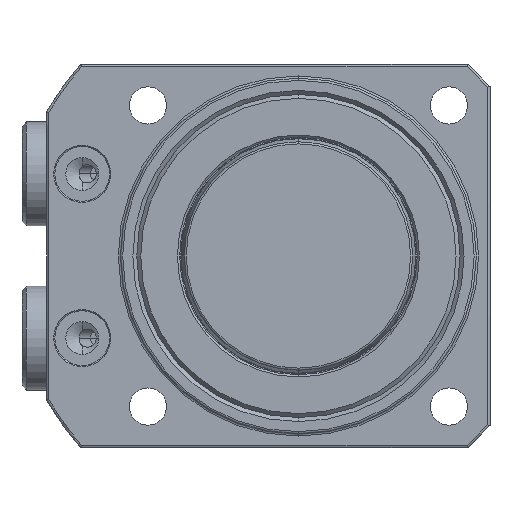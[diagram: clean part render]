
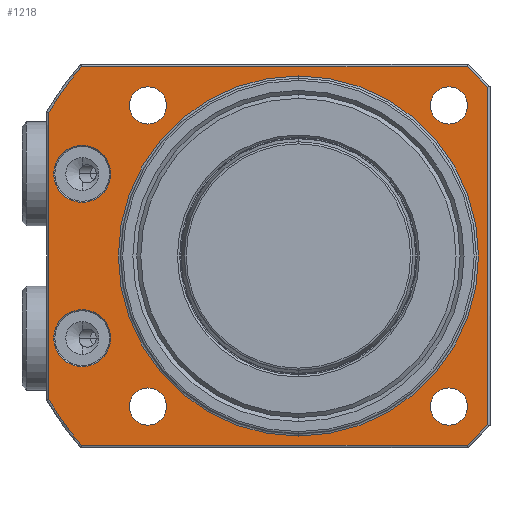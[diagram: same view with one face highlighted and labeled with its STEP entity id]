
A CAD part, front view. The second image highlights one B-rep face of the part: STEP entity #1218.
In plain terms, the highlighted planar face has unit normal (0, -1, 0) as drawn and (1, 0, 0) by its records, which use the part's own axes.
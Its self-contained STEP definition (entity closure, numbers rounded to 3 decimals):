
#881=PLANE('',#4543);
#945=FACE_BOUND('',#1697,.T.);
#946=FACE_BOUND('',#1698,.T.);
#947=FACE_BOUND('',#1699,.T.);
#948=FACE_BOUND('',#1700,.T.);
#949=FACE_BOUND('',#1701,.T.);
#950=FACE_BOUND('',#1702,.T.);
#951=FACE_BOUND('',#1703,.T.);
#952=FACE_BOUND('',#1704,.T.);
#1218=ADVANCED_FACE('',(#945,#946,#947,#948,#949,#950,#951,#952),#881,.F.);
#1697=EDGE_LOOP('',(#2611,#2612));
#1698=EDGE_LOOP('',(#2613,#2614));
#1699=EDGE_LOOP('',(#2615,#2616,#2617,#2618,#2619,#2620,#2621,#2622));
#1700=EDGE_LOOP('',(#2623,#2624));
#1701=EDGE_LOOP('',(#2625,#2626));
#1702=EDGE_LOOP('',(#2627,#2628));
#1703=EDGE_LOOP('',(#2629,#2630));
#1704=EDGE_LOOP('',(#2631,#2632));
#1971=LINE('',#6707,#2172);
#1972=LINE('',#6710,#2173);
#1973=LINE('',#6712,#2174);
#1974=LINE('',#6714,#2175);
#1975=LINE('',#6718,#2176);
#1976=LINE('',#6722,#2177);
#2172=VECTOR('',#5266,1.);
#2173=VECTOR('',#5267,1.);
#2174=VECTOR('',#5268,1.);
#2175=VECTOR('',#5269,1.);
#2176=VECTOR('',#5272,1.);
#2177=VECTOR('',#5275,1.);
#2611=ORIENTED_EDGE('',*,*,#3720,.T.);
#2612=ORIENTED_EDGE('',*,*,#3859,.T.);
#2613=ORIENTED_EDGE('',*,*,#3716,.T.);
#2614=ORIENTED_EDGE('',*,*,#3860,.T.);
#2615=ORIENTED_EDGE('',*,*,#3861,.T.);
#2616=ORIENTED_EDGE('',*,*,#3862,.T.);
#2617=ORIENTED_EDGE('',*,*,#3863,.T.);
#2618=ORIENTED_EDGE('',*,*,#3864,.T.);
#2619=ORIENTED_EDGE('',*,*,#3865,.T.);
#2620=ORIENTED_EDGE('',*,*,#3866,.T.);
#2621=ORIENTED_EDGE('',*,*,#3867,.T.);
#2622=ORIENTED_EDGE('',*,*,#3868,.T.);
#2623=ORIENTED_EDGE('',*,*,#3869,.T.);
#2624=ORIENTED_EDGE('',*,*,#3726,.T.);
#2625=ORIENTED_EDGE('',*,*,#3870,.T.);
#2626=ORIENTED_EDGE('',*,*,#3812,.T.);
#2627=ORIENTED_EDGE('',*,*,#3871,.T.);
#2628=ORIENTED_EDGE('',*,*,#3820,.T.);
#2629=ORIENTED_EDGE('',*,*,#3872,.T.);
#2630=ORIENTED_EDGE('',*,*,#3828,.T.);
#2631=ORIENTED_EDGE('',*,*,#3873,.T.);
#2632=ORIENTED_EDGE('',*,*,#3836,.T.);
#3361=VERTEX_POINT('',#6179);
#3362=VERTEX_POINT('',#6181);
#3365=VERTEX_POINT('',#6188);
#3366=VERTEX_POINT('',#6190);
#3371=VERTEX_POINT('',#6203);
#3372=VERTEX_POINT('',#6204);
#3441=VERTEX_POINT('',#6549);
#3442=VERTEX_POINT('',#6550);
#3449=VERTEX_POINT('',#6576);
#3450=VERTEX_POINT('',#6577);
#3457=VERTEX_POINT('',#6603);
#3458=VERTEX_POINT('',#6604);
#3465=VERTEX_POINT('',#6630);
#3466=VERTEX_POINT('',#6631);
#3477=VERTEX_POINT('',#6708);
#3478=VERTEX_POINT('',#6709);
#3479=VERTEX_POINT('',#6711);
#3480=VERTEX_POINT('',#6713);
#3481=VERTEX_POINT('',#6715);
#3482=VERTEX_POINT('',#6717);
#3483=VERTEX_POINT('',#6719);
#3484=VERTEX_POINT('',#6721);
#3716=EDGE_CURVE('',#3362,#3361,#4172,.T.);
#3720=EDGE_CURVE('',#3366,#3365,#4174,.T.);
#3726=EDGE_CURVE('',#3371,#3372,#4179,.T.);
#3812=EDGE_CURVE('',#3441,#3442,#4216,.T.);
#3820=EDGE_CURVE('',#3449,#3450,#4219,.T.);
#3828=EDGE_CURVE('',#3457,#3458,#4222,.T.);
#3836=EDGE_CURVE('',#3465,#3466,#4225,.T.);
#3859=EDGE_CURVE('',#3365,#3366,#4235,.T.);
#3860=EDGE_CURVE('',#3361,#3362,#4236,.T.);
#3861=EDGE_CURVE('',#3477,#3478,#1971,.T.);
#3862=EDGE_CURVE('',#3478,#3479,#1972,.T.);
#3863=EDGE_CURVE('',#3479,#3480,#1973,.T.);
#3864=EDGE_CURVE('',#3480,#3481,#1974,.T.);
#3865=EDGE_CURVE('',#3481,#3482,#4237,.T.);
#3866=EDGE_CURVE('',#3482,#3483,#1975,.T.);
#3867=EDGE_CURVE('',#3483,#3484,#4238,.T.);
#3868=EDGE_CURVE('',#3484,#3477,#1976,.T.);
#3869=EDGE_CURVE('',#3372,#3371,#4239,.T.);
#3870=EDGE_CURVE('',#3442,#3441,#4240,.T.);
#3871=EDGE_CURVE('',#3450,#3449,#4241,.T.);
#3872=EDGE_CURVE('',#3458,#3457,#4242,.T.);
#3873=EDGE_CURVE('',#3466,#3465,#4243,.T.);
#4172=CIRCLE('',#4434,5.2);
#4174=CIRCLE('',#4437,5.2);
#4179=CIRCLE('',#4444,32.9);
#4216=CIRCLE('',#4503,3.4);
#4219=CIRCLE('',#4508,3.4);
#4222=CIRCLE('',#4513,3.4);
#4225=CIRCLE('',#4518,3.4);
#4235=CIRCLE('',#4534,5.2);
#4236=CIRCLE('',#4535,5.2);
#4237=CIRCLE('',#4536,52.6);
#4238=CIRCLE('',#4537,52.6);
#4239=CIRCLE('',#4538,32.9);
#4240=CIRCLE('',#4539,3.4);
#4241=CIRCLE('',#4540,3.4);
#4242=CIRCLE('',#4541,3.4);
#4243=CIRCLE('',#4542,3.4);
#4434=AXIS2_PLACEMENT_3D('',#6180,#5001,#5002);
#4437=AXIS2_PLACEMENT_3D('',#6189,#5009,#5010);
#4444=AXIS2_PLACEMENT_3D('',#6202,#5024,#5025);
#4503=AXIS2_PLACEMENT_3D('',#6548,#5182,#5183);
#4508=AXIS2_PLACEMENT_3D('',#6575,#5196,#5197);
#4513=AXIS2_PLACEMENT_3D('',#6602,#5210,#5211);
#4518=AXIS2_PLACEMENT_3D('',#6629,#5224,#5225);
#4534=AXIS2_PLACEMENT_3D('',#6705,#5262,#5263);
#4535=AXIS2_PLACEMENT_3D('',#6706,#5264,#5265);
#4536=AXIS2_PLACEMENT_3D('',#6716,#5270,#5271);
#4537=AXIS2_PLACEMENT_3D('',#6720,#5273,#5274);
#4538=AXIS2_PLACEMENT_3D('',#6723,#5276,#5277);
#4539=AXIS2_PLACEMENT_3D('',#6724,#5278,#5279);
#4540=AXIS2_PLACEMENT_3D('',#6725,#5280,#5281);
#4541=AXIS2_PLACEMENT_3D('',#6726,#5282,#5283);
#4542=AXIS2_PLACEMENT_3D('',#6727,#5284,#5285);
#4543=AXIS2_PLACEMENT_3D('',#6728,#5286,#5287);
#5001=DIRECTION('',(-1.,0.,0.));
#5002=DIRECTION('',(0.,0.,1.));
#5009=DIRECTION('',(-1.,0.,0.));
#5010=DIRECTION('',(0.,0.,1.));
#5024=DIRECTION('',(-1.,0.,0.));
#5025=DIRECTION('',(0.,0.,1.));
#5182=DIRECTION('',(-1.,0.,0.));
#5183=DIRECTION('',(0.,0.,1.));
#5196=DIRECTION('',(-1.,0.,0.));
#5197=DIRECTION('',(0.,0.,1.));
#5210=DIRECTION('',(-1.,0.,0.));
#5211=DIRECTION('',(0.,0.,1.));
#5224=DIRECTION('',(-1.,0.,0.));
#5225=DIRECTION('',(0.,0.,1.));
#5262=DIRECTION('',(-1.,0.,0.));
#5263=DIRECTION('',(0.,0.,1.));
#5264=DIRECTION('',(-1.,0.,0.));
#5265=DIRECTION('',(0.,0.,1.));
#5266=DIRECTION('',(0.,0.707,0.707));
#5267=DIRECTION('',(0.,0.,1.));
#5268=DIRECTION('',(0.,-0.707,0.707));
#5269=DIRECTION('',(0.,-1.,0.));
#5270=DIRECTION('',(1.,0.,0.));
#5271=DIRECTION('',(0.,0.,1.));
#5272=DIRECTION('',(0.,0.,-1.));
#5273=DIRECTION('',(1.,0.,0.));
#5274=DIRECTION('',(0.,0.,1.));
#5275=DIRECTION('',(0.,1.,0.));
#5276=DIRECTION('',(-1.,0.,0.));
#5277=DIRECTION('',(0.,0.,1.));
#5278=DIRECTION('',(-1.,0.,0.));
#5279=DIRECTION('',(0.,0.,1.));
#5280=DIRECTION('',(-1.,0.,0.));
#5281=DIRECTION('',(0.,0.,1.));
#5282=DIRECTION('',(-1.,0.,0.));
#5283=DIRECTION('',(0.,0.,1.));
#5284=DIRECTION('',(-1.,0.,0.));
#5285=DIRECTION('',(0.,0.,1.));
#5286=DIRECTION('',(-1.,0.,0.));
#5287=DIRECTION('',(0.,0.,-1.));
#6179=CARTESIAN_POINT('',(0.,-39.5,20.2));
#6180=CARTESIAN_POINT('',(0.,-39.5,15.));
#6181=CARTESIAN_POINT('',(0.,-39.5,9.8));
#6188=CARTESIAN_POINT('',(0.,-39.5,-9.8));
#6189=CARTESIAN_POINT('',(0.,-39.5,-15.));
#6190=CARTESIAN_POINT('',(0.,-39.5,-20.2));
#6202=CARTESIAN_POINT('',(0.,0.,0.));
#6203=CARTESIAN_POINT('',(0.,0.,-32.9));
#6204=CARTESIAN_POINT('',(0.,0.,32.9));
#6548=CARTESIAN_POINT('',(0.,27.5,27.5));
#6549=CARTESIAN_POINT('',(0.,27.5,24.1));
#6550=CARTESIAN_POINT('',(0.,27.5,30.9));
#6575=CARTESIAN_POINT('',(0.,27.5,-27.5));
#6576=CARTESIAN_POINT('',(0.,27.5,-30.9));
#6577=CARTESIAN_POINT('',(0.,27.5,-24.1));
#6602=CARTESIAN_POINT('',(0.,-27.5,-27.5));
#6603=CARTESIAN_POINT('',(0.,-27.5,-30.9));
#6604=CARTESIAN_POINT('',(0.,-27.5,-24.1));
#6629=CARTESIAN_POINT('',(0.,-27.5,27.5));
#6630=CARTESIAN_POINT('',(0.,-27.5,24.1));
#6631=CARTESIAN_POINT('',(0.,-27.5,30.9));
#6705=CARTESIAN_POINT('',(0.,-39.5,-15.));
#6706=CARTESIAN_POINT('',(0.,-39.5,15.));
#6707=CARTESIAN_POINT('',(0.,34.717,-30.717));
#6708=CARTESIAN_POINT('',(0.,30.834,-34.6));
#6709=CARTESIAN_POINT('',(0.,34.6,-30.834));
#6710=CARTESIAN_POINT('',(0.,34.6,31.));
#6711=CARTESIAN_POINT('',(0.,34.6,30.834));
#6712=CARTESIAN_POINT('',(0.,30.717,34.717));
#6713=CARTESIAN_POINT('',(0.,30.834,34.6));
#6714=CARTESIAN_POINT('',(0.,-39.799,34.6));
#6715=CARTESIAN_POINT('',(0.,-39.618,34.6));
#6716=CARTESIAN_POINT('',(0.,0.,0.));
#6717=CARTESIAN_POINT('',(0.,-45.6,26.218));
#6718=CARTESIAN_POINT('',(0.,-45.6,-26.325));
#6719=CARTESIAN_POINT('',(0.,-45.6,-26.218));
#6720=CARTESIAN_POINT('',(0.,0.,0.));
#6721=CARTESIAN_POINT('',(0.,-39.618,-34.6));
#6722=CARTESIAN_POINT('',(0.,31.,-34.6));
#6723=CARTESIAN_POINT('',(0.,0.,0.));
#6724=CARTESIAN_POINT('',(0.,27.5,27.5));
#6725=CARTESIAN_POINT('',(0.,27.5,-27.5));
#6726=CARTESIAN_POINT('',(0.,-27.5,-27.5));
#6727=CARTESIAN_POINT('',(0.,-27.5,27.5));
#6728=CARTESIAN_POINT('',(0.,0.,0.));
